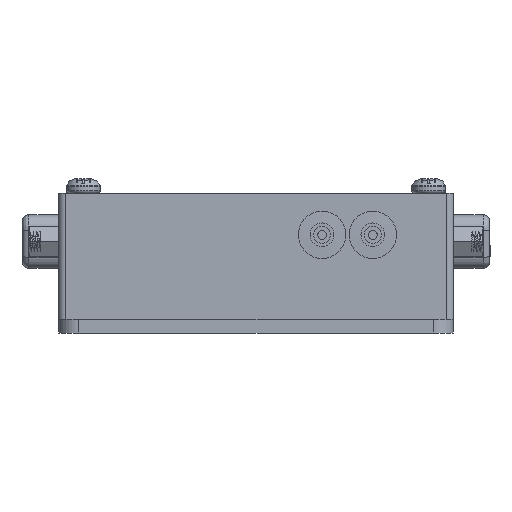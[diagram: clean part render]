
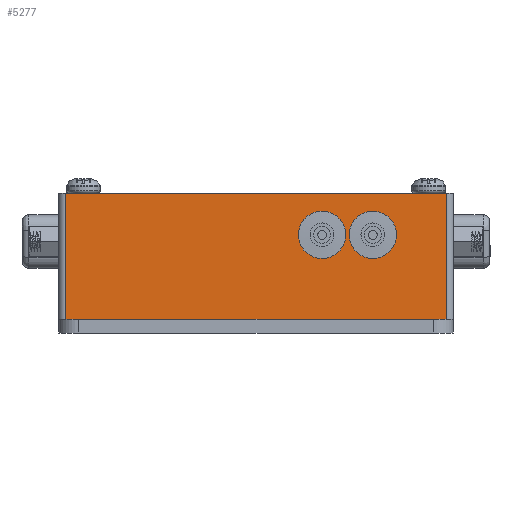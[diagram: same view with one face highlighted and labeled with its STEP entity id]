
A CAD part, front view. The second image highlights one B-rep face of the part: STEP entity #5277.
In plain terms, the highlighted planar face has unit normal (0, -1, 0).
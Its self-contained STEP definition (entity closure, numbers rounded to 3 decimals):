
#280=FACE_BOUND('',#940,.T.);
#281=FACE_BOUND('',#941,.T.);
#339=PLANE('',#5806);
#566=FACE_OUTER_BOUND('',#939,.T.);
#939=EDGE_LOOP('',(#4152,#4153,#4154,#4155));
#940=EDGE_LOOP('',(#4156));
#941=EDGE_LOOP('',(#4157));
#1302=CIRCLE('',#5803,3.5);
#1304=CIRCLE('',#5807,3.5);
#1613=LINE('',#9013,#1921);
#1695=LINE('',#9850,#2003);
#1696=LINE('',#9852,#2004);
#1697=LINE('',#9853,#2005);
#1921=VECTOR('',#6458,10.);
#2003=VECTOR('',#6920,10.);
#2004=VECTOR('',#6921,1000.);
#2005=VECTOR('',#6922,10.);
#2288=VERTEX_POINT('',#9010);
#2289=VERTEX_POINT('',#9012);
#2413=VERTEX_POINT('',#9841);
#2415=VERTEX_POINT('',#9849);
#2416=VERTEX_POINT('',#9851);
#2417=VERTEX_POINT('',#9854);
#2831=EDGE_CURVE('',#2288,#2289,#1613,.F.);
#3031=EDGE_CURVE('',#2413,#2413,#1302,.T.);
#3035=EDGE_CURVE('',#2415,#2288,#1695,.T.);
#3036=EDGE_CURVE('',#2416,#2415,#1696,.T.);
#3037=EDGE_CURVE('',#2289,#2416,#1697,.T.);
#3038=EDGE_CURVE('',#2417,#2417,#1304,.T.);
#4152=ORIENTED_EDGE('',*,*,#3035,.F.);
#4153=ORIENTED_EDGE('',*,*,#3036,.F.);
#4154=ORIENTED_EDGE('',*,*,#3037,.F.);
#4155=ORIENTED_EDGE('',*,*,#2831,.F.);
#4156=ORIENTED_EDGE('',*,*,#3038,.T.);
#4157=ORIENTED_EDGE('',*,*,#3031,.T.);
#5277=ADVANCED_FACE('',(#566,#280,#281),#339,.F.);
#5803=AXIS2_PLACEMENT_3D('',#9842,#6910,#6911);
#5806=AXIS2_PLACEMENT_3D('',#9848,#6918,#6919);
#5807=AXIS2_PLACEMENT_3D('',#9855,#6923,#6924);
#6458=DIRECTION('',(-1.,0.,0.));
#6910=DIRECTION('center_axis',(0.,1.,0.));
#6911=DIRECTION('ref_axis',(0.,0.,1.));
#6918=DIRECTION('center_axis',(0.,1.,0.));
#6919=DIRECTION('ref_axis',(0.,0.,1.));
#6920=DIRECTION('',(0.,0.,1.));
#6921=DIRECTION('',(-1.,0.,0.));
#6922=DIRECTION('',(0.,0.,-1.));
#6923=DIRECTION('center_axis',(0.,1.,0.));
#6924=DIRECTION('ref_axis',(0.,0.,1.));
#9010=CARTESIAN_POINT('',(-28.15,-23.,20.65));
#9012=CARTESIAN_POINT('',(28.15,-23.,20.65));
#9013=CARTESIAN_POINT('',(-13.925,-23.,20.65));
#9841=CARTESIAN_POINT('',(17.25,-23.,11.));
#9842=CARTESIAN_POINT('Origin',(17.25,-23.,14.5));
#9848=CARTESIAN_POINT('Origin',(-27.85,-23.,20.));
#9849=CARTESIAN_POINT('',(-28.15,-23.,2.));
#9850=CARTESIAN_POINT('',(-28.15,-23.,20.));
#9851=CARTESIAN_POINT('',(28.15,-23.,2.));
#9852=CARTESIAN_POINT('',(27.85,-23.,2.));
#9853=CARTESIAN_POINT('',(28.15,-23.,20.));
#9854=CARTESIAN_POINT('',(9.75,-23.,11.));
#9855=CARTESIAN_POINT('Origin',(9.75,-23.,14.5));
